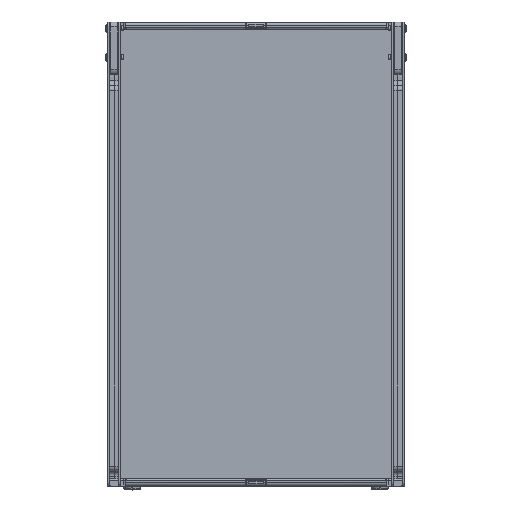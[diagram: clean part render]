
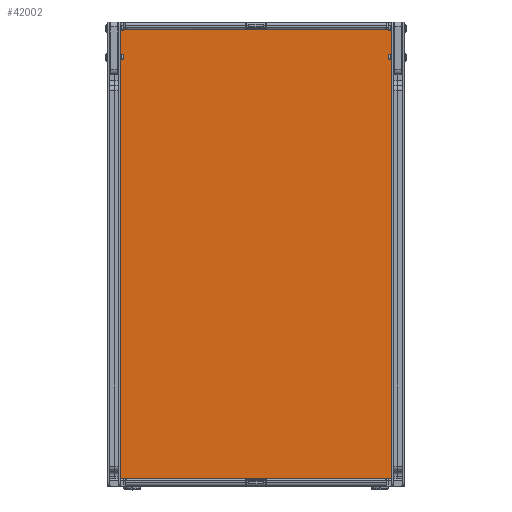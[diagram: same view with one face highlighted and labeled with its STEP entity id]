
A CAD part, top view. The second image highlights one B-rep face of the part: STEP entity #42002.
In plain terms, the highlighted planar face has unit normal (0, 0, 1).
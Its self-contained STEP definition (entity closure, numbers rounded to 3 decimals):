
#5528 = PLANE ( 'NONE',  #51750 ) ;
#5529 = CARTESIAN_POINT ( 'NONE',  ( 574.5, 459.926, -76.597 ) ) ;
#5530 = DIRECTION ( 'NONE',  ( 0., 0., 1. ) ) ;
#5531 = DIRECTION ( 'NONE',  ( 1., 0., 0. ) ) ;
#6168 = FACE_OUTER_BOUND ( 'NONE', #32798, .T. ) ;
#11979 = LINE ( 'NONE', #13569, #11981 ) ;
#11981 = VECTOR ( 'NONE', #13571, 1000. ) ;
#11986 = LINE ( 'NONE', #13582, #11987 ) ;
#11987 = VECTOR ( 'NONE', #13584, 1000. ) ;
#11990 = LINE ( 'NONE', #13592, #11991 ) ;
#11991 = VECTOR ( 'NONE', #14391, 1000. ) ;
#13569 = CARTESIAN_POINT ( 'NONE',  ( 574.5, -447.074, -76.597 ) ) ;
#13571 = DIRECTION ( 'NONE',  ( 1., 0., 0. ) ) ;
#13582 = CARTESIAN_POINT ( 'NONE',  ( 25.5, -447.074, -76.597 ) ) ;
#13584 = DIRECTION ( 'NONE',  ( 0., -1., 0. ) ) ;
#13592 = CARTESIAN_POINT ( 'NONE',  ( 574.5, 459.926, -76.597 ) ) ;
#13913 = VERTEX_POINT ( 'NONE', #53153 ) ;
#13916 = VERTEX_POINT ( 'NONE', #53156 ) ;
#13920 = VERTEX_POINT ( 'NONE', #53160 ) ;
#14099 = VERTEX_POINT ( 'NONE', #53339 ) ;
#14391 = DIRECTION ( 'NONE',  ( -1., 0., 0. ) ) ;
#31840 = ORIENTED_EDGE ( 'NONE', *, *, #50763, .T. ) ;
#31841 = ORIENTED_EDGE ( 'NONE', *, *, #44508, .T. ) ;
#31842 = ORIENTED_EDGE ( 'NONE', *, *, #44503, .T. ) ;
#31843 = ORIENTED_EDGE ( 'NONE', *, *, #44496, .T. ) ;
#32798 = EDGE_LOOP ( 'NONE', ( #31840, #31841, #31842, #31843 ) ) ;
#40060 = LINE ( 'NONE', #40442, #40061 ) ;
#40061 = VECTOR ( 'NONE', #40443, 1000. ) ;
#40442 = CARTESIAN_POINT ( 'NONE',  ( 574.5, -447.074, -76.597 ) ) ;
#40443 = DIRECTION ( 'NONE',  ( 0., 1., 0. ) ) ;
#42002 = ADVANCED_FACE ( 'NONE', ( #6168 ), #5528, .T. ) ;
#44496 = EDGE_CURVE ( 'NONE', #13913, #14099, #11979, .T. ) ;
#44503 = EDGE_CURVE ( 'NONE', #13920, #13913, #11986, .T. ) ;
#44508 = EDGE_CURVE ( 'NONE', #13916, #13920, #11990, .T. ) ;
#50763 = EDGE_CURVE ( 'NONE', #14099, #13916, #40060, .T. ) ;
#51750 = AXIS2_PLACEMENT_3D ( 'NONE', #5529, #5530, #5531 ) ;
#53153 = CARTESIAN_POINT ( 'NONE',  ( 25.5, -447.074, -76.597 ) ) ;
#53156 = CARTESIAN_POINT ( 'NONE',  ( 574.5, 459.926, -76.597 ) ) ;
#53160 = CARTESIAN_POINT ( 'NONE',  ( 25.5, 459.926, -76.597 ) ) ;
#53339 = CARTESIAN_POINT ( 'NONE',  ( 574.5, -447.074, -76.597 ) ) ;
